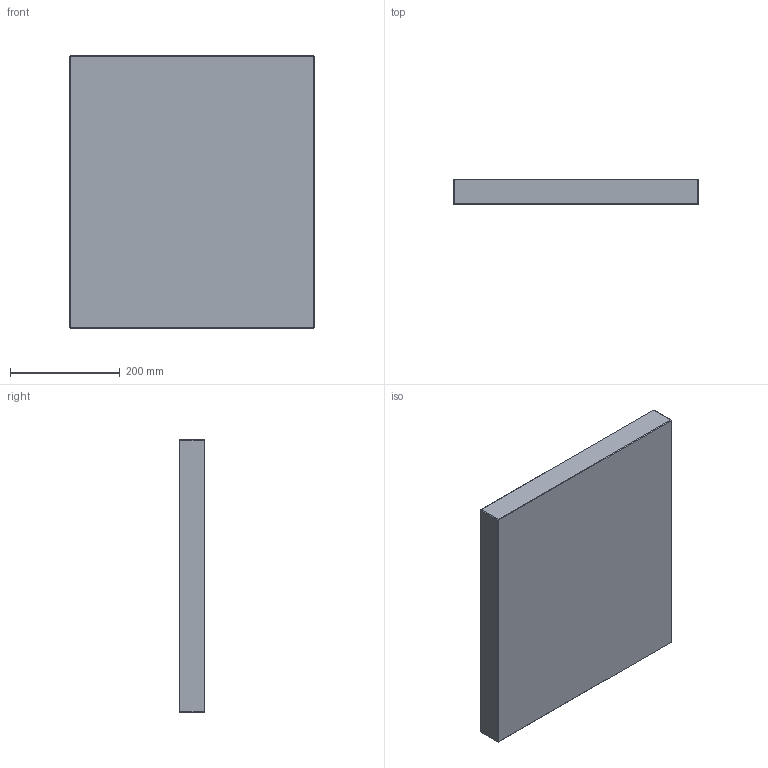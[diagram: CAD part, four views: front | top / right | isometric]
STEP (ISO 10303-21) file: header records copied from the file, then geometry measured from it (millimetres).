
FILE_DESCRIPTION (( 'STEP AP214' ), '1' );
FILE_NAME ('PBA-P-396x496x46.STEP', '2020-03-11T15:56:17', ( 'August' ), ( '' ), 'SwSTEP 2.0', 'SolidWorks 2018', '' );
FILE_SCHEMA (( 'AUTOMOTIVE_DESIGN' ));
Length unit declared in the file: millimetre
Products named in the file (1): PBA-P-396x496x46
Bounding box: 446 x 46 x 496 mm (x, y, z)
Volume: 10173965.3 mm3; surface area: 526778 mm2
Topology: 1 solids, 1 shells, 26 faces, 48 edges, 24 vertices
Faces by surface type: plane 26
Entity records: 634 total; most frequent: DIRECTION 102, CARTESIAN_POINT 99, ORIENTED_EDGE 96, VECTOR 48, EDGE_CURVE 48, LINE 48, AXIS2_PLACEMENT_3D 27, PLANE 26
